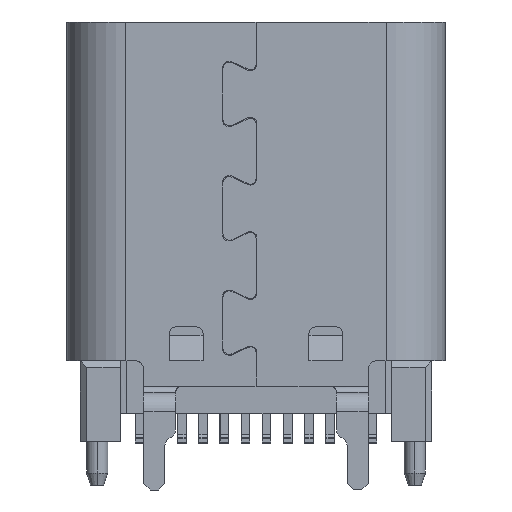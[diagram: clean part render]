
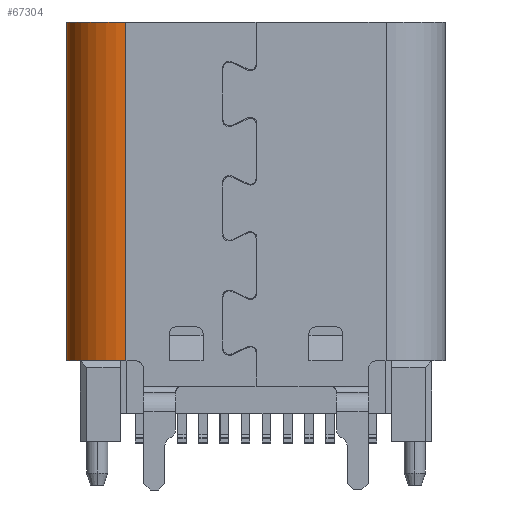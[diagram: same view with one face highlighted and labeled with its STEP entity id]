
A CAD part, front view. The second image highlights one B-rep face of the part: STEP entity #67304.
In plain terms, the highlighted cylindrical face has radius 1.4 mm (diameter 2.8 mm), a partial arc.
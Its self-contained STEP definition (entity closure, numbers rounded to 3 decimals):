
#2170 = ORIENTED_EDGE ( 'NONE', *, *, #34509, .T. ) ;
#2173 = CYLINDRICAL_SURFACE ( 'NONE', #56061, 1.4 ) ;
#3079 = LINE ( 'NONE', #34663, #17668 ) ;
#8113 = CARTESIAN_POINT ( 'NONE',  ( -4.211, -0.748, 14.643 ) ) ;
#13668 = DIRECTION ( 'NONE',  ( 0., 0., 1. ) ) ;
#15113 = DIRECTION ( 'NONE',  ( 0., 0., -1. ) ) ;
#17668 = VECTOR ( 'NONE', #65016, 1000. ) ;
#20405 = ORIENTED_EDGE ( 'NONE', *, *, #60737, .T. ) ;
#20543 = EDGE_CURVE ( 'NONE', #48470, #55853, #3079, .T. ) ;
#20872 = EDGE_LOOP ( 'NONE', ( #47581, #20405, #2170, #53200 ) ) ;
#22057 = DIRECTION ( 'NONE',  ( 0., 0., 1. ) ) ;
#24921 = CIRCLE ( 'NONE', #30120, 1.4 ) ;
#28281 = VECTOR ( 'NONE', #15113, 1000. ) ;
#30120 = AXIS2_PLACEMENT_3D ( 'NONE', #8113, #22057, #77404 ) ;
#30398 = VERTEX_POINT ( 'NONE', #68257 ) ;
#32409 = EDGE_CURVE ( 'NONE', #59464, #55853, #42957, .T. ) ;
#34509 = EDGE_CURVE ( 'NONE', #30398, #48470, #24921, .T. ) ;
#34663 = CARTESIAN_POINT ( 'NONE',  ( -4.211, -2.148, 18.018 ) ) ;
#34697 = CARTESIAN_POINT ( 'NONE',  ( -5.611, -0.748, 22.643 ) ) ;
#37759 = CARTESIAN_POINT ( 'NONE',  ( -4.211, -2.148, 14.643 ) ) ;
#42574 = DIRECTION ( 'NONE',  ( 0., 0., 1. ) ) ;
#42957 = CIRCLE ( 'NONE', #63921, 1.4 ) ;
#46859 = CARTESIAN_POINT ( 'NONE',  ( -4.211, -0.748, 14.496 ) ) ;
#47581 = ORIENTED_EDGE ( 'NONE', *, *, #32409, .F. ) ;
#48470 = VERTEX_POINT ( 'NONE', #37759 ) ;
#49136 = CARTESIAN_POINT ( 'NONE',  ( -4.211, -0.748, 22.643 ) ) ;
#53005 = FACE_OUTER_BOUND ( 'NONE', #20872, .T. ) ;
#53200 = ORIENTED_EDGE ( 'NONE', *, *, #20543, .T. ) ;
#55853 = VERTEX_POINT ( 'NONE', #78240 ) ;
#56061 = AXIS2_PLACEMENT_3D ( 'NONE', #46859, #13668, #76819 ) ;
#59464 = VERTEX_POINT ( 'NONE', #34697 ) ;
#59825 = CARTESIAN_POINT ( 'NONE',  ( -5.611, -0.748, 14.496 ) ) ;
#60737 = EDGE_CURVE ( 'NONE', #59464, #30398, #77854, .T. ) ;
#63921 = AXIS2_PLACEMENT_3D ( 'NONE', #49136, #42574, #74141 ) ;
#65016 = DIRECTION ( 'NONE',  ( 0., 0., 1. ) ) ;
#67304 = ADVANCED_FACE ( 'NONE', ( #53005 ), #2173, .T. ) ;
#68257 = CARTESIAN_POINT ( 'NONE',  ( -5.611, -0.748, 14.643 ) ) ;
#74141 = DIRECTION ( 'NONE',  ( -1., 0., 0. ) ) ;
#76819 = DIRECTION ( 'NONE',  ( 1., 0., 0. ) ) ;
#77404 = DIRECTION ( 'NONE',  ( 1., 0., 0. ) ) ;
#77854 = LINE ( 'NONE', #59825, #28281 ) ;
#78240 = CARTESIAN_POINT ( 'NONE',  ( -4.211, -2.148, 22.643 ) ) ;
